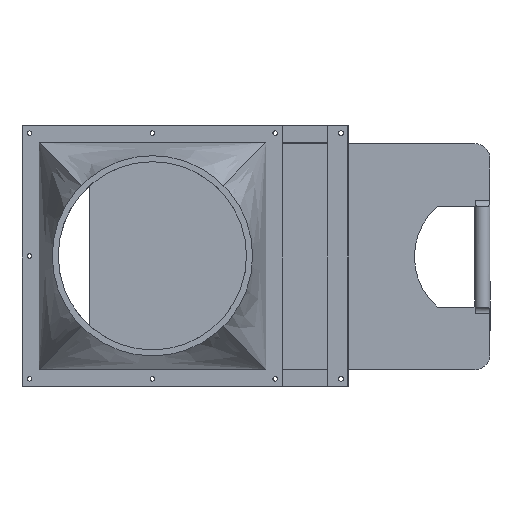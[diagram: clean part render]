
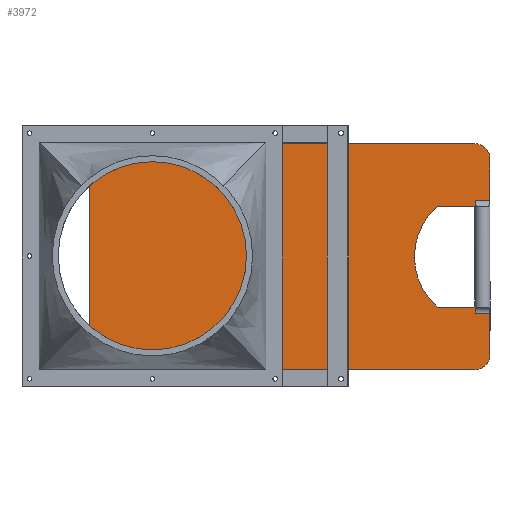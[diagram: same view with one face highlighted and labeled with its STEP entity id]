
A CAD part, top view. The second image highlights one B-rep face of the part: STEP entity #3972.
In plain terms, the highlighted planar face has unit normal (0, 0, 1).
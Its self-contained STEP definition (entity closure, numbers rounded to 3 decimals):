
#3766=CARTESIAN_POINT('',(-19.827,224.,3.));
#3767=VERTEX_POINT('',#3766);
#3797=CARTESIAN_POINT('',(-0.173,224.,3.));
#3798=VERTEX_POINT('',#3797);
#3818=CARTESIAN_POINT('',(-0.173,224.,3.));
#3819=DIRECTION('',(-1.0,0.0,0.0));
#3820=VECTOR('',#3819,19.653);
#3821=LINE('',#3818,#3820);
#3822=EDGE_CURVE('',#3798,#3767,#3821,.T.);
#3827=CARTESIAN_POINT('',(-254.446,149.5,3.));
#3828=DIRECTION('',(0.0,0.0,1.0));
#3829=DIRECTION('',(1.0,0.0,0.0));
#3830=AXIS2_PLACEMENT_3D('',#3827,#3828,#3829);
#3831=PLANE('',#3830);
#3832=CARTESIAN_POINT('',(-19.827,216.,3.));
#3833=VERTEX_POINT('',#3832);
#3834=CARTESIAN_POINT('',(-19.827,216.,3.));
#3835=DIRECTION('',(0.0,1.0,0.0));
#3836=VECTOR('',#3835,8.);
#3837=LINE('',#3834,#3836);
#3838=EDGE_CURVE('',#3833,#3767,#3837,.T.);
#3839=ORIENTED_EDGE('',*,*,#3838,.T.);
#3840=ORIENTED_EDGE('',*,*,#3822,.F.);
#3841=CARTESIAN_POINT('',(-0.173,216.0,3.));
#3842=VERTEX_POINT('',#3841);
#3843=CARTESIAN_POINT('',(-0.173,224.,3.));
#3844=DIRECTION('',(0.0,-1.0,0.0));
#3845=VECTOR('',#3844,8.);
#3846=LINE('',#3843,#3845);
#3847=EDGE_CURVE('',#3798,#3842,#3846,.T.);
#3848=ORIENTED_EDGE('',*,*,#3847,.T.);
#3849=CARTESIAN_POINT('',(0.,216.0,3.));
#3850=VERTEX_POINT('',#3849);
#3851=CARTESIAN_POINT('',(0.,216.0,3.));
#3852=DIRECTION('',(-1.0,0.0,0.0));
#3853=VECTOR('',#3852,0.173);
#3854=LINE('',#3851,#3853);
#3855=EDGE_CURVE('',#3850,#3842,#3854,.T.);
#3856=ORIENTED_EDGE('',*,*,#3855,.F.);
#3857=CARTESIAN_POINT('',(0.,279.0,3.));
#3858=VERTEX_POINT('',#3857);
#3859=CARTESIAN_POINT('',(0.,279.0,3.));
#3860=DIRECTION('',(0.0,-1.0,0.0));
#3861=VECTOR('',#3860,63.0);
#3862=LINE('',#3859,#3861);
#3863=EDGE_CURVE('',#3858,#3850,#3862,.T.);
#3864=ORIENTED_EDGE('',*,*,#3863,.F.);
#3865=CARTESIAN_POINT('',(-20.,299.0,3.));
#3866=VERTEX_POINT('',#3865);
#3867=CARTESIAN_POINT('',(-20.,279.0,3.));
#3868=DIRECTION('',(0.0,0.0,-1.0));
#3869=DIRECTION('',(1.0,0.0,0.0));
#3870=AXIS2_PLACEMENT_3D('',#3867,#3868,#3869);
#3871=CIRCLE('',#3870,20.0);
#3872=EDGE_CURVE('',#3866,#3858,#3871,.T.);
#3873=ORIENTED_EDGE('',*,*,#3872,.F.);
#3874=CARTESIAN_POINT('',(-530.,299.,3.));
#3875=VERTEX_POINT('',#3874);
#3876=CARTESIAN_POINT('',(-530.,299.,3.));
#3877=DIRECTION('',(1.0,0.0,0.0));
#3878=VECTOR('',#3877,510.0);
#3879=LINE('',#3876,#3878);
#3880=EDGE_CURVE('',#3875,#3866,#3879,.T.);
#3881=ORIENTED_EDGE('',*,*,#3880,.F.);
#3882=CARTESIAN_POINT('',(-530.0,0.,3.));
#3883=VERTEX_POINT('',#3882);
#3884=CARTESIAN_POINT('',(-530.0,0.,3.));
#3885=DIRECTION('',(0.0,1.0,0.0));
#3886=VECTOR('',#3885,299.);
#3887=LINE('',#3884,#3886);
#3888=EDGE_CURVE('',#3883,#3875,#3887,.T.);
#3889=ORIENTED_EDGE('',*,*,#3888,.F.);
#3890=CARTESIAN_POINT('',(-20.0,0.,3.));
#3891=VERTEX_POINT('',#3890);
#3892=CARTESIAN_POINT('',(-20.0,0.,3.));
#3893=DIRECTION('',(-1.0,0.0,0.0));
#3894=VECTOR('',#3893,510.0);
#3895=LINE('',#3892,#3894);
#3896=EDGE_CURVE('',#3891,#3883,#3895,.T.);
#3897=ORIENTED_EDGE('',*,*,#3896,.F.);
#3898=CARTESIAN_POINT('',(0.,20.,3.));
#3899=VERTEX_POINT('',#3898);
#3900=CARTESIAN_POINT('',(-20.,20.,3.));
#3901=DIRECTION('',(0.0,0.0,-1.0));
#3902=DIRECTION('',(0.0,-1.0,0.0));
#3903=AXIS2_PLACEMENT_3D('',#3900,#3901,#3902);
#3904=CIRCLE('',#3903,20.0);
#3905=EDGE_CURVE('',#3899,#3891,#3904,.T.);
#3906=ORIENTED_EDGE('',*,*,#3905,.F.);
#3907=CARTESIAN_POINT('',(0.,83.,3.));
#3908=VERTEX_POINT('',#3907);
#3909=CARTESIAN_POINT('',(0.,83.,3.));
#3910=DIRECTION('',(0.0,-1.0,0.0));
#3911=VECTOR('',#3910,63.);
#3912=LINE('',#3909,#3911);
#3913=EDGE_CURVE('',#3908,#3899,#3912,.T.);
#3914=ORIENTED_EDGE('',*,*,#3913,.F.);
#3915=CARTESIAN_POINT('',(-0.173,83.,3.));
#3916=VERTEX_POINT('',#3915);
#3917=CARTESIAN_POINT('',(-0.173,83.,3.));
#3918=DIRECTION('',(1.0,0.0,0.0));
#3919=VECTOR('',#3918,0.173);
#3920=LINE('',#3917,#3919);
#3921=EDGE_CURVE('',#3916,#3908,#3920,.T.);
#3922=ORIENTED_EDGE('',*,*,#3921,.F.);
#3923=CARTESIAN_POINT('',(-0.173,75.,3.));
#3924=VERTEX_POINT('',#3923);
#3925=CARTESIAN_POINT('',(-0.173,83.,3.));
#3926=DIRECTION('',(0.0,-1.0,0.0));
#3927=VECTOR('',#3926,8.0);
#3928=LINE('',#3925,#3927);
#3929=EDGE_CURVE('',#3916,#3924,#3928,.T.);
#3930=ORIENTED_EDGE('',*,*,#3929,.T.);
#3931=CARTESIAN_POINT('',(-19.827,75.,3.));
#3932=VERTEX_POINT('',#3931);
#3933=CARTESIAN_POINT('',(-19.827,75.0,3.));
#3934=DIRECTION('',(1.0,0.0,0.0));
#3935=VECTOR('',#3934,19.653);
#3936=LINE('',#3933,#3935);
#3937=EDGE_CURVE('',#3932,#3924,#3936,.T.);
#3938=ORIENTED_EDGE('',*,*,#3937,.F.);
#3939=CARTESIAN_POINT('',(-19.827,83.0,3.));
#3940=VERTEX_POINT('',#3939);
#3941=CARTESIAN_POINT('',(-19.827,75.0,3.));
#3942=DIRECTION('',(0.0,1.0,0.0));
#3943=VECTOR('',#3942,8.0);
#3944=LINE('',#3941,#3943);
#3945=EDGE_CURVE('',#3932,#3940,#3944,.T.);
#3946=ORIENTED_EDGE('',*,*,#3945,.T.);
#3947=CARTESIAN_POINT('',(-70.,83.,3.));
#3948=VERTEX_POINT('',#3947);
#3949=CARTESIAN_POINT('',(-70.,83.0,3.));
#3950=DIRECTION('',(1.0,0.0,0.0));
#3951=VECTOR('',#3950,50.173);
#3952=LINE('',#3949,#3951);
#3953=EDGE_CURVE('',#3948,#3940,#3952,.T.);
#3954=ORIENTED_EDGE('',*,*,#3953,.F.);
#3955=CARTESIAN_POINT('',(-70.,216.,3.));
#3956=VERTEX_POINT('',#3955);
#3957=CARTESIAN_POINT('',(-11.296,149.5,3.));
#3958=DIRECTION('',(0.0,0.0,1.0));
#3959=DIRECTION('',(0.662,-0.75,0.0));
#3960=AXIS2_PLACEMENT_3D('',#3957,#3958,#3959);
#3961=CIRCLE('',#3960,88.704);
#3962=EDGE_CURVE('',#3956,#3948,#3961,.T.);
#3963=ORIENTED_EDGE('',*,*,#3962,.F.);
#3964=CARTESIAN_POINT('',(-19.827,216.0,3.));
#3965=DIRECTION('',(-1.0,0.0,0.0));
#3966=VECTOR('',#3965,50.173);
#3967=LINE('',#3964,#3966);
#3968=EDGE_CURVE('',#3833,#3956,#3967,.T.);
#3969=ORIENTED_EDGE('',*,*,#3968,.F.);
#3970=EDGE_LOOP('',(#3839,#3840,#3848,#3856,#3864,#3873,#3881,#3889,#3897,#3906,#3914,#3922,#3930,#3938,#3946,#3954,#3963,#3969));
#3971=FACE_OUTER_BOUND('',#3970,.T.);
#3972=ADVANCED_FACE('',(#3971),#3831,.T.);
